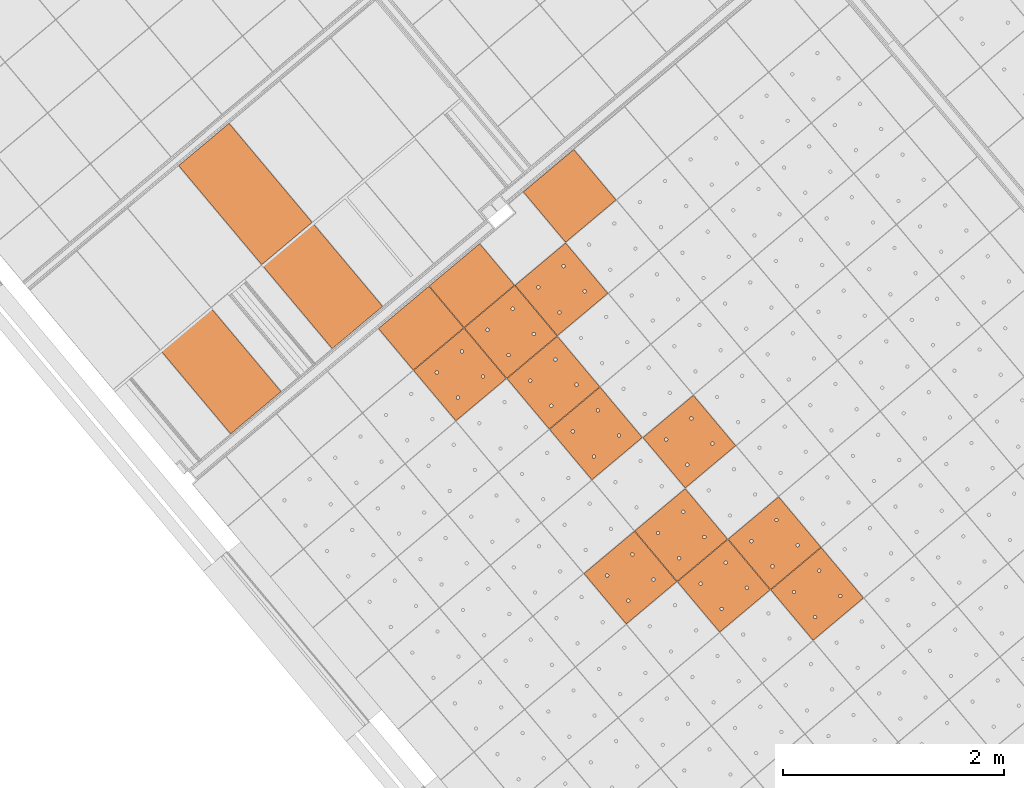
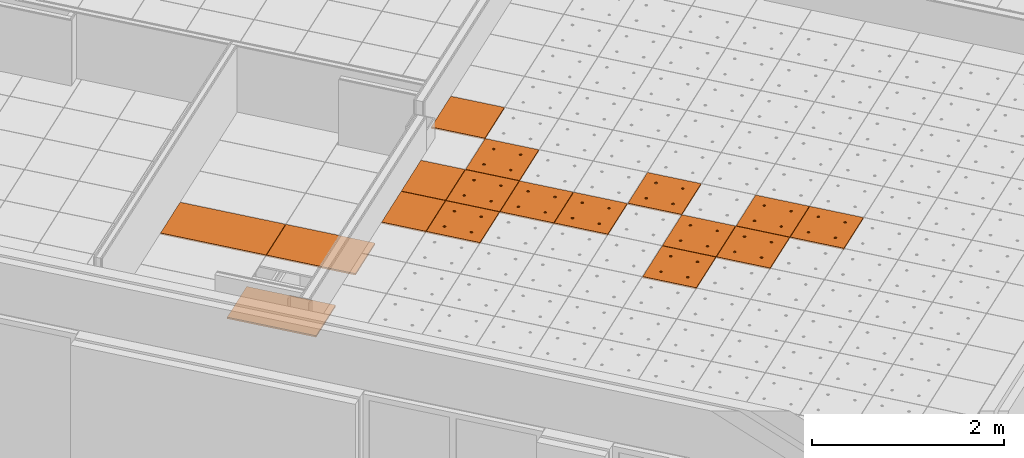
# One storey, part 133 of 338: 17 proxies, 2 elements without a shape of their own.
"""IFC2X3 building model written with IfcOpenShell, lengths in millimetres."""

from ifc_helpers import new_model, entity, si_unit, converted_unit, derived_unit, money_unit, direction, frame, origin_with_axes, place, context, subcontext, project, spatial, faceted_brep, source, transform, mapped, material, type_object, type_shapes, element, aggregate, save


model = new_model("IFC2X3")

# Units and contexts
model_context = context("Model", 3, precision=0.01, world=origin_with_axes(), true_north=direction((0.0, 1.0)))
plan_context = context("Plan", 3, precision=0.01, world=origin_with_axes(), true_north=direction((0.0, 1.0)))
body_context = subcontext(model_context, "Body", "Model", "MODEL_VIEW")
ifc_project = project(units=[si_unit("LENGTHUNIT", "METRE", prefix="MILLI"), si_unit("AREAUNIT", "SQUARE_METRE"), si_unit("VOLUMEUNIT", "CUBIC_METRE"), converted_unit("PLANEANGLEUNIT", "DEGREE", entity("IfcPlaneAngleMeasure", 0.0174532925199), si_unit("PLANEANGLEUNIT", "RADIAN"), dimensions=[0, 0, 0, 0, 0, 0, 0]), money_unit("EUR"), converted_unit("TIMEUNIT", "Year", entity("IfcTimeMeasure", 31556926.0), si_unit("TIMEUNIT", "SECOND"), dimensions=[0, 0, 1, 0, 0, 0, 0]), si_unit("MASSUNIT", "GRAM", prefix="KILO"), si_unit("THERMODYNAMICTEMPERATUREUNIT", "DEGREE_CELSIUS"), si_unit("LUMINOUSINTENSITYUNIT", "LUMEN"), si_unit("ENERGYUNIT", "JOULE", prefix="MEGA"), derived_unit("THERMALCONDUCTANCEUNIT", [(si_unit("POWERUNIT", "WATT"), 1), (si_unit("LENGTHUNIT", "METRE"), -1), (si_unit("THERMODYNAMICTEMPERATUREUNIT", "KELVIN"), -1)]), derived_unit("SPECIFICHEATCAPACITYUNIT", [(si_unit("ENERGYUNIT", "JOULE"), 1), (si_unit("MASSUNIT", "GRAM", prefix="KILO"), -1), (si_unit("THERMODYNAMICTEMPERATUREUNIT", "KELVIN"), -1)]), derived_unit("MASSDENSITYUNIT", [(si_unit("MASSUNIT", "GRAM", prefix="KILO"), 1), (si_unit("VOLUMEUNIT", "CUBIC_METRE"), -1)])], contexts=[model_context, plan_context])

# Site, building, storey
site_placement = place(None, origin_with_axes())
site = spatial("IfcSite", under=ifc_project, at=site_placement, Name="Fortuinstraat Woensdrecht", CompositionType="ELEMENT")
building_placement = place(site_placement, origin_with_axes())
building = spatial("IfcBuilding", under=site, at=building_placement, Name="IKC Fortuna", CompositionType="ELEMENT")
storey_placement = place(building_placement, origin_with_axes())
storey = spatial("IfcBuildingStorey", under=building, at=storey_placement, Name="00 begane grond", CompositionType="ELEMENT", Elevation=0.0)

# Covering, proxies
covering_type = type_object("IfcCoveringType", Name="Curtain Wall Type", PredefinedType="CEILING")
covering_1_placement = place(storey_placement, frame((15150.6418133, -6622.13986243, 4660.0), z_axis=(0.0, 0.0, 1.0), x_axis=(1.0, 0.0, 0.0)))
covering_1 = element("IfcCovering", 1, at=covering_1_placement, inside=storey, type_object=covering_type, Name="45_Plafondafwerking_P01", PredefinedType="CEILING")
ifc_material = material(Name="Gipsplaat")
building_element_proxy_type_1 = type_object("IfcBuildingElementProxyType", Name="Main Panel 600 x 600 x 20", PredefinedType="NOTDEFINED")
shared_shape_1 = source(origin_with_axes(), body_context, "Body", "Brep", [
    faceted_brep([(2.49999999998, 2.49999999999, -10.0), (300.0, 2.49999999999, -10.0), (300.0, 2.49999999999, 10.0), (2.49999999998, 2.49999999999, 10.0), (2.49999999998, 300.0, -10.0), (2.49999999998, 597.5, -10.0), (300.0, 597.5, -10.0), (597.5, 597.5, -10.0), (597.5, 300.0, -10.0), (597.5, 2.49999999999, -10.0), (166.25, 450.06232995, -10.0), (165.79423259, 452.64711538, -10.0), (164.896546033, 455.11348892, -10.0), (163.58421608, 457.38651108, -10.0), (161.897117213, 459.39711721, -10.0), (159.886511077, 461.08421608, -10.0), (157.613488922, 462.39654603, -10.0), (155.147115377, 463.29423259, -10.0), (152.562329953, 463.75, -10.0), (149.937670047, 463.75, -10.0), (147.352884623, 463.29423259, -10.0), (144.886511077, 462.39654603, -10.0), (142.613488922, 461.08421608, -10.0), (140.602882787, 459.39711721, -10.0), (138.91578392, 457.38651108, -10.0), (137.603453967, 455.11348892, -10.0), (136.705767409, 452.64711538, -10.0), (136.25, 450.06232995, -10.0), (136.25, 448.75, -10.0), (136.25, 447.43767005, -10.0), (136.705767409, 444.85288462, -10.0), (137.603453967, 442.38651108, -10.0), (138.91578392, 440.11348892, -10.0), (140.602882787, 438.10288279, -10.0), (142.613488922, 436.41578392, -10.0), (144.886511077, 435.10345397, -10.0), (147.352884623, 434.20576741, -10.0), (149.937670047, 433.75, -10.0), (152.562329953, 433.75, -10.0), (155.147115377, 434.20576741, -10.0), (157.613488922, 435.10345397, -10.0), (159.886511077, 436.41578392, -10.0), (161.897117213, 438.10288279, -10.0), (163.58421608, 440.11348892, -10.0), (164.896546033, 442.38651108, -10.0), (165.79423259, 444.85288462, -10.0), (166.25, 447.43767005, -10.0), (463.75, 450.06232995, -10.0), (463.29423259, 452.64711538, -10.0), (462.396546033, 455.11348892, -10.0), (461.08421608, 457.38651108, -10.0), (459.397117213, 459.39711721, -10.0), (457.386511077, 461.08421608, -10.0), (455.113488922, 462.39654603, -10.0), (452.647115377, 463.29423259, -10.0), (450.062329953, 463.75, -10.0), (447.437670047, 463.75, -10.0), (444.852884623, 463.29423259, -10.0), (442.386511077, 462.39654603, -10.0), (440.113488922, 461.08421608, -10.0), (438.102882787, 459.39711721, -10.0), (436.41578392, 457.38651108, -10.0), (435.103453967, 455.11348892, -10.0), (434.205767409, 452.64711538, -10.0), (433.75, 450.06232995, -10.0), (433.75, 448.75, -10.0), (433.75, 447.43767005, -10.0), (434.205767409, 444.85288462, -10.0), (435.103453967, 442.38651108, -10.0), (436.41578392, 440.11348892, -10.0), (438.102882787, 438.10288279, -10.0), (440.113488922, 436.41578392, -10.0), (442.386511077, 435.10345397, -10.0), (444.852884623, 434.20576741, -10.0), (447.437670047, 433.75, -10.0), (450.062329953, 433.75, -10.0), (452.647115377, 434.20576741, -10.0), (455.113488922, 435.10345397, -10.0), (457.386511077, 436.41578392, -10.0), (459.397117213, 438.10288279, -10.0), (461.08421608, 440.11348892, -10.0), (462.396546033, 442.38651108, -10.0), (463.29423259, 444.85288462, -10.0), (463.75, 447.43767005, -10.0), (463.75, 152.56232995, -10.0), (463.29423259, 155.14711538, -10.0), (462.396546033, 157.61348892, -10.0), (461.08421608, 159.88651108, -10.0), (459.397117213, 161.89711721, -10.0), (457.386511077, 163.58421608, -10.0), (455.113488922, 164.89654603, -10.0), (452.647115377, 165.79423259, -10.0), (450.062329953, 166.25, -10.0), (447.437670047, 166.25, -10.0), (444.852884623, 165.79423259, -10.0), (442.386511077, 164.89654603, -10.0), (440.113488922, 163.58421608, -10.0), (438.102882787, 161.89711721, -10.0), (436.41578392, 159.88651108, -10.0), (435.103453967, 157.61348892, -10.0), (434.205767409, 155.14711538, -10.0), (433.75, 152.56232995, -10.0), (433.75, 151.25, -10.0), (433.75, 149.93767005, -10.0), (434.205767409, 147.35288462, -10.0), (435.103453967, 144.88651108, -10.0), (436.41578392, 142.61348892, -10.0), (438.102882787, 140.60288279, -10.0), (440.113488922, 138.91578392, -10.0), (442.386511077, 137.60345397, -10.0), (444.852884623, 136.70576741, -10.0), (447.437670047, 136.25, -10.0), (450.062329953, 136.25, -10.0), (452.647115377, 136.70576741, -10.0), (455.113488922, 137.60345397, -10.0), (457.386511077, 138.91578392, -10.0), (459.397117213, 140.60288279, -10.0), (461.08421608, 142.61348892, -10.0), (462.396546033, 144.88651108, -10.0), (463.29423259, 147.35288462, -10.0), (463.75, 149.93767005, -10.0), (166.25, 152.56232995, -10.0), (165.79423259, 155.14711538, -10.0), (164.896546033, 157.61348892, -10.0), (163.58421608, 159.88651108, -10.0), (161.897117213, 161.89711721, -10.0), (159.886511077, 163.58421608, -10.0), (157.613488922, 164.89654603, -10.0), (155.147115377, 165.79423259, -10.0), (152.562329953, 166.25, -10.0), (149.937670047, 166.25, -10.0), (147.352884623, 165.79423259, -10.0), (144.886511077, 164.89654603, -10.0), (142.613488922, 163.58421608, -10.0), (140.602882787, 161.89711721, -10.0), (138.91578392, 159.88651108, -10.0), (137.603453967, 157.61348892, -10.0), (136.705767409, 155.14711538, -10.0), (136.25, 152.56232995, -10.0), (136.25, 151.25, -10.0), (136.25, 149.93767005, -10.0), (136.705767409, 147.35288462, -10.0), (137.603453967, 144.88651108, -10.0), (138.91578392, 142.61348892, -10.0), (140.602882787, 140.60288279, -10.0), (142.613488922, 138.91578392, -10.0), (144.886511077, 137.60345397, -10.0), (147.352884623, 136.70576741, -10.0), (149.937670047, 136.25, -10.0), (152.562329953, 136.25, -10.0), (155.147115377, 136.70576741, -10.0), (157.613488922, 137.60345397, -10.0), (159.886511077, 138.91578392, -10.0), (161.897117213, 140.60288279, -10.0), (163.58421608, 142.61348892, -10.0), (164.896546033, 144.88651108, -10.0), (165.79423259, 147.35288462, -10.0), (166.25, 149.93767005, -10.0), (597.5, 2.49999999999, 10.0), (597.5, 300.0, 10.0), (597.5, 597.5, 10.0), (300.0, 597.5, 10.0), (2.49999999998, 597.5, 10.0), (2.49999999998, 300.0, 10.0), (166.25, 450.06232995, 10.0), (166.25, 447.43767005, 10.0), (165.79423259, 444.85288462, 10.0), (164.896546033, 442.38651108, 10.0), (163.58421608, 440.11348892, 10.0), (161.897117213, 438.10288279, 10.0), (159.886511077, 436.41578392, 10.0), (157.613488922, 435.10345397, 10.0), (155.147115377, 434.20576741, 10.0), (152.562329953, 433.75, 10.0), (149.937670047, 433.75, 10.0), (147.352884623, 434.20576741, 10.0), (144.886511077, 435.10345397, 10.0), (142.613488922, 436.41578392, 10.0), (140.602882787, 438.10288279, 10.0), (138.91578392, 440.11348892, 10.0), (137.603453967, 442.38651108, 10.0), (136.705767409, 444.85288462, 10.0), (136.25, 447.43767005, 10.0), (136.25, 448.75, 10.0), (136.25, 450.06232995, 10.0), (136.705767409, 452.64711538, 10.0), (137.603453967, 455.11348892, 10.0), (138.91578392, 457.38651108, 10.0), (140.602882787, 459.39711721, 10.0), (142.613488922, 461.08421608, 10.0), (144.886511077, 462.39654603, 10.0), (147.352884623, 463.29423259, 10.0), (149.937670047, 463.75, 10.0), (152.562329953, 463.75, 10.0), (155.147115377, 463.29423259, 10.0), (157.613488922, 462.39654603, 10.0), (159.886511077, 461.08421608, 10.0), (161.897117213, 459.39711721, 10.0), (163.58421608, 457.38651108, 10.0), (164.896546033, 455.11348892, 10.0), (165.79423259, 452.64711538, 10.0), (463.75, 450.06232995, 10.0), (463.75, 447.43767005, 10.0), (463.29423259, 444.85288462, 10.0), (462.396546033, 442.38651108, 10.0), (461.08421608, 440.11348892, 10.0), (459.397117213, 438.10288279, 10.0), (457.386511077, 436.41578392, 10.0), (455.113488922, 435.10345397, 10.0), (452.647115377, 434.20576741, 10.0), (450.062329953, 433.75, 10.0), (447.437670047, 433.75, 10.0), (444.852884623, 434.20576741, 10.0), (442.386511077, 435.10345397, 10.0), (440.113488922, 436.41578392, 10.0), (438.102882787, 438.10288279, 10.0), (436.41578392, 440.11348892, 10.0), (435.103453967, 442.38651108, 10.0), (434.205767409, 444.85288462, 10.0), (433.75, 447.43767005, 10.0), (433.75, 448.75, 10.0), (433.75, 450.06232995, 10.0), (434.205767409, 452.64711538, 10.0), (435.103453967, 455.11348892, 10.0), (436.41578392, 457.38651108, 10.0), (438.102882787, 459.39711721, 10.0), (440.113488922, 461.08421608, 10.0), (442.386511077, 462.39654603, 10.0), (444.852884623, 463.29423259, 10.0), (447.437670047, 463.75, 10.0), (450.062329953, 463.75, 10.0), (452.647115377, 463.29423259, 10.0), (455.113488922, 462.39654603, 10.0), (457.386511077, 461.08421608, 10.0), (459.397117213, 459.39711721, 10.0), (461.08421608, 457.38651108, 10.0), (462.396546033, 455.11348892, 10.0), (463.29423259, 452.64711538, 10.0), (463.75, 152.56232995, 10.0), (463.75, 149.93767005, 10.0), (463.29423259, 147.35288462, 10.0), (462.396546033, 144.88651108, 10.0), (461.08421608, 142.61348892, 10.0), (459.397117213, 140.60288279, 10.0), (457.386511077, 138.91578392, 10.0), (455.113488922, 137.60345397, 10.0), (452.647115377, 136.70576741, 10.0), (450.062329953, 136.25, 10.0), (447.437670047, 136.25, 10.0), (444.852884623, 136.70576741, 10.0), (442.386511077, 137.60345397, 10.0), (440.113488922, 138.91578392, 10.0), (438.102882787, 140.60288279, 10.0), (436.41578392, 142.61348892, 10.0), (435.103453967, 144.88651108, 10.0), (434.205767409, 147.35288462, 10.0), (433.75, 149.93767005, 10.0), (433.75, 151.25, 10.0), (433.75, 152.56232995, 10.0), (434.205767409, 155.14711538, 10.0), (435.103453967, 157.61348892, 10.0), (436.41578392, 159.88651108, 10.0), (438.102882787, 161.89711721, 10.0), (440.113488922, 163.58421608, 10.0), (442.386511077, 164.89654603, 10.0), (444.852884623, 165.79423259, 10.0), (447.437670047, 166.25, 10.0), (450.062329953, 166.25, 10.0), (452.647115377, 165.79423259, 10.0), (455.113488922, 164.89654603, 10.0), (457.386511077, 163.58421608, 10.0), (459.397117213, 161.89711721, 10.0), (461.08421608, 159.88651108, 10.0), (462.396546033, 157.61348892, 10.0), (463.29423259, 155.14711538, 10.0), (166.25, 152.56232995, 10.0), (166.25, 149.93767005, 10.0), (165.79423259, 147.35288462, 10.0), (164.896546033, 144.88651108, 10.0), (163.58421608, 142.61348892, 10.0), (161.897117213, 140.60288279, 10.0), (159.886511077, 138.91578392, 10.0), (157.613488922, 137.60345397, 10.0), (155.147115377, 136.70576741, 10.0), (152.562329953, 136.25, 10.0), (149.937670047, 136.25, 10.0), (147.352884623, 136.70576741, 10.0), (144.886511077, 137.60345397, 10.0), (142.613488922, 138.91578392, 10.0), (140.602882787, 140.60288279, 10.0), (138.91578392, 142.61348892, 10.0), (137.603453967, 144.88651108, 10.0), (136.705767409, 147.35288462, 10.0), (136.25, 149.93767005, 10.0), (136.25, 151.25, 10.0), (136.25, 152.56232995, 10.0), (136.705767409, 155.14711538, 10.0), (137.603453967, 157.61348892, 10.0), (138.91578392, 159.88651108, 10.0), (140.602882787, 161.89711721, 10.0), (142.613488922, 163.58421608, 10.0), (144.886511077, 164.89654603, 10.0), (147.352884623, 165.79423259, 10.0), (149.937670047, 166.25, 10.0), (152.562329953, 166.25, 10.0), (155.147115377, 165.79423259, 10.0), (157.613488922, 164.89654603, 10.0), (159.886511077, 163.58421608, 10.0), (161.897117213, 161.89711721, 10.0), (163.58421608, 159.88651108, 10.0), (164.896546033, 157.61348892, 10.0), (165.79423259, 155.14711538, 10.0)], [[[0, 1, 2, 3]], [[0, 4, 5, 6, 7, 8, 9, 1], [10, 11, 12, 13, 14, 15, 16, 17, 18, 19, 20, 21, 22, 23, 24, 25, 26, 27, 28, 29, 30, 31, 32, 33, 34, 35, 36, 37, 38, 39, 40, 41, 42, 43, 44, 45, 46], [47, 48, 49, 50, 51, 52, 53, 54, 55, 56, 57, 58, 59, 60, 61, 62, 63, 64, 65, 66, 67, 68, 69, 70, 71, 72, 73, 74, 75, 76, 77, 78, 79, 80, 81, 82, 83], [84, 85, 86, 87, 88, 89, 90, 91, 92, 93, 94, 95, 96, 97, 98, 99, 100, 101, 102, 103, 104, 105, 106, 107, 108, 109, 110, 111, 112, 113, 114, 115, 116, 117, 118, 119, 120], [121, 122, 123, 124, 125, 126, 127, 128, 129, 130, 131, 132, 133, 134, 135, 136, 137, 138, 139, 140, 141, 142, 143, 144, 145, 146, 147, 148, 149, 150, 151, 152, 153, 154, 155, 156, 157]], [[1, 9, 158, 2]], [[3, 2, 158, 159, 160, 161, 162, 163], [164, 165, 166, 167, 168, 169, 170, 171, 172, 173, 174, 175, 176, 177, 178, 179, 180, 181, 182, 183, 184, 185, 186, 187, 188, 189, 190, 191, 192, 193, 194, 195, 196, 197, 198, 199, 200], [201, 202, 203, 204, 205, 206, 207, 208, 209, 210, 211, 212, 213, 214, 215, 216, 217, 218, 219, 220, 221, 222, 223, 224, 225, 226, 227, 228, 229, 230, 231, 232, 233, 234, 235, 236, 237], [238, 239, 240, 241, 242, 243, 244, 245, 246, 247, 248, 249, 250, 251, 252, 253, 254, 255, 256, 257, 258, 259, 260, 261, 262, 263, 264, 265, 266, 267, 268, 269, 270, 271, 272, 273, 274], [275, 276, 277, 278, 279, 280, 281, 282, 283, 284, 285, 286, 287, 288, 289, 290, 291, 292, 293, 294, 295, 296, 297, 298, 299, 300, 301, 302, 303, 304, 305, 306, 307, 308, 309, 310, 311]], [[4, 0, 3, 163]], [[5, 4, 163, 162]], [[6, 5, 162, 161]], [[7, 6, 161, 160]], [[8, 7, 160, 159]], [[9, 8, 159, 158]], [[11, 10, 164, 200]], [[12, 11, 200, 199]], [[13, 12, 199, 198]], [[14, 13, 198, 197]], [[15, 14, 197, 196]], [[16, 15, 196, 195]], [[17, 16, 195, 194]], [[18, 17, 194, 193]], [[19, 18, 193, 192]], [[20, 19, 192, 191]], [[21, 20, 191, 190]], [[22, 21, 190, 189]], [[23, 22, 189, 188]], [[24, 23, 188, 187]], [[25, 24, 187, 186]], [[26, 25, 186, 185]], [[27, 26, 185, 184]], [[28, 27, 184, 183]], [[29, 28, 183, 182]], [[30, 29, 182, 181]], [[31, 30, 181, 180]], [[32, 31, 180, 179]], [[33, 32, 179, 178]], [[34, 33, 178, 177]], [[35, 34, 177, 176]], [[36, 35, 176, 175]], [[37, 36, 175, 174]], [[38, 37, 174, 173]], [[39, 38, 173, 172]], [[40, 39, 172, 171]], [[41, 40, 171, 170]], [[42, 41, 170, 169]], [[43, 42, 169, 168]], [[44, 43, 168, 167]], [[45, 44, 167, 166]], [[46, 45, 166, 165]], [[10, 46, 165, 164]], [[48, 47, 201, 237]], [[49, 48, 237, 236]], [[50, 49, 236, 235]], [[51, 50, 235, 234]], [[52, 51, 234, 233]], [[53, 52, 233, 232]], [[54, 53, 232, 231]], [[55, 54, 231, 230]], [[56, 55, 230, 229]], [[57, 56, 229, 228]], [[58, 57, 228, 227]], [[59, 58, 227, 226]], [[60, 59, 226, 225]], [[61, 60, 225, 224]], [[62, 61, 224, 223]], [[63, 62, 223, 222]], [[64, 63, 222, 221]], [[65, 64, 221, 220]], [[66, 65, 220, 219]], [[67, 66, 219, 218]], [[68, 67, 218, 217]], [[69, 68, 217, 216]], [[70, 69, 216, 215]], [[71, 70, 215, 214]], [[72, 71, 214, 213]], [[73, 72, 213, 212]], [[74, 73, 212, 211]], [[75, 74, 211, 210]], [[76, 75, 210, 209]], [[77, 76, 209, 208]], [[78, 77, 208, 207]], [[79, 78, 207, 206]], [[80, 79, 206, 205]], [[81, 80, 205, 204]], [[82, 81, 204, 203]], [[83, 82, 203, 202]], [[47, 83, 202, 201]], [[85, 84, 238, 274]], [[86, 85, 274, 273]], [[87, 86, 273, 272]], [[88, 87, 272, 271]], [[89, 88, 271, 270]], [[90, 89, 270, 269]], [[91, 90, 269, 268]], [[92, 91, 268, 267]], [[93, 92, 267, 266]], [[94, 93, 266, 265]], [[95, 94, 265, 264]], [[96, 95, 264, 263]], [[97, 96, 263, 262]], [[98, 97, 262, 261]], [[99, 98, 261, 260]], [[100, 99, 260, 259]], [[101, 100, 259, 258]], [[102, 101, 258, 257]], [[103, 102, 257, 256]], [[104, 103, 256, 255]], [[105, 104, 255, 254]], [[106, 105, 254, 253]], [[107, 106, 253, 252]], [[108, 107, 252, 251]], [[109, 108, 251, 250]], [[110, 109, 250, 249]], [[111, 110, 249, 248]], [[112, 111, 248, 247]], [[113, 112, 247, 246]], [[114, 113, 246, 245]], [[115, 114, 245, 244]], [[116, 115, 244, 243]], [[117, 116, 243, 242]], [[118, 117, 242, 241]], [[119, 118, 241, 240]], [[120, 119, 240, 239]], [[84, 120, 239, 238]], [[122, 121, 275, 311]], [[123, 122, 311, 310]], [[124, 123, 310, 309]], [[125, 124, 309, 308]], [[126, 125, 308, 307]], [[127, 126, 307, 306]], [[128, 127, 306, 305]], [[129, 128, 305, 304]], [[130, 129, 304, 303]], [[131, 130, 303, 302]], [[132, 131, 302, 301]], [[133, 132, 301, 300]], [[134, 133, 300, 299]], [[135, 134, 299, 298]], [[136, 135, 298, 297]], [[137, 136, 297, 296]], [[138, 137, 296, 295]], [[139, 138, 295, 294]], [[140, 139, 294, 293]], [[141, 140, 293, 292]], [[142, 141, 292, 291]], [[143, 142, 291, 290]], [[144, 143, 290, 289]], [[145, 144, 289, 288]], [[146, 145, 288, 287]], [[147, 146, 287, 286]], [[148, 147, 286, 285]], [[149, 148, 285, 284]], [[150, 149, 284, 283]], [[151, 150, 283, 282]], [[152, 151, 282, 281]], [[153, 152, 281, 280]], [[154, 153, 280, 279]], [[155, 154, 279, 278]], [[156, 155, 278, 277]], [[157, 156, 277, 276]], [[121, 157, 276, 275]]]),
])
type_shapes(building_element_proxy_type_1, [shared_shape_1])
proxy_1_placement = place(covering_1_placement, frame((-2717.10872428, -3148.02100934, 1.38555833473e-10), z_axis=(0.0, 0.0, 1.0), x_axis=(1.0, 0.0, 0.0)))
proxy_1 = element("IfcBuildingElementProxy", 2, at=proxy_1_placement, type_object=building_element_proxy_type_1, material=ifc_material, Name="__600x608 Rockfon Krios", context=body_context, shape_type="MappedRepresentation", body=[
    mapped(shared_shape_1, transform((36.9769427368, 422.649625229, 0.0), x_axis=(-0.766044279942, -0.642787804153, 0.0), y_axis=(0.642787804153, -0.766044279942, 0.0), z_axis=(0.0, 0.0, 1.0))),
])
proxy_2_placement = place(covering_1_placement, frame((-3176.73529225, -3533.69369183, 1.58095758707e-10), z_axis=(0.0, 0.0, 1.0), x_axis=(1.0, 0.0, 0.0)))
proxy_2 = element("IfcBuildingElementProxy", 3, at=proxy_2_placement, type_object=building_element_proxy_type_1, material=ifc_material, Name="__600x609 Rockfon Krios", context=body_context, shape_type="MappedRepresentation", body=[
    mapped(shared_shape_1, transform((36.9769427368, 422.649625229, 0.0), x_axis=(-0.766044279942, -0.642787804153, 0.0), y_axis=(0.642787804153, -0.766044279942, 0.0), z_axis=(0.0, 0.0, 1.0))),
])
proxy_3_placement = place(covering_1_placement, frame((-2331.43604179, -3607.64757731, 1.38555833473e-10), z_axis=(0.0, 0.0, 1.0), x_axis=(1.0, 0.0, 0.0)))
proxy_3 = element("IfcBuildingElementProxy", 4, at=proxy_3_placement, type_object=building_element_proxy_type_1, material=ifc_material, Name="__600x628 Rockfon Krios", context=body_context, shape_type="MappedRepresentation", body=[
    mapped(shared_shape_1, transform((36.9769427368, 422.649625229, 0.0), x_axis=(-0.766044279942, -0.642787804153, 0.0), y_axis=(0.642787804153, -0.766044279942, 0.0), z_axis=(0.0, 0.0, 1.0))),
])
proxy_4_placement = place(covering_1_placement, frame((-2257.48215631, -2762.34832685, 1.1901590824e-10), z_axis=(0.0, 0.0, 1.0), x_axis=(1.0, 0.0, 0.0)))
proxy_4 = element("IfcBuildingElementProxy", 5, at=proxy_4_placement, type_object=building_element_proxy_type_1, material=ifc_material, Name="__600x637 Rockfon Krios", context=body_context, shape_type="MappedRepresentation", body=[
    mapped(shared_shape_1, transform((36.9769427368, 422.649625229, 0.0), x_axis=(-0.766044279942, -0.642787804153, 0.0), y_axis=(0.642787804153, -0.766044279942, 0.0), z_axis=(0.0, 0.0, 1.0))),
])
proxy_5_placement = place(covering_1_placement, frame((-1945.7633593, -4067.27414527, 1.38555833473e-10), z_axis=(0.0, 0.0, 1.0), x_axis=(1.0, 0.0, 0.0)))
proxy_5 = element("IfcBuildingElementProxy", 6, at=proxy_5_placement, type_object=building_element_proxy_type_1, material=ifc_material, Name="__600x682 Rockfon Krios", context=body_context, shape_type="MappedRepresentation", body=[
    mapped(shared_shape_1, transform((36.9769427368, 422.649625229, 0.0), x_axis=(-0.766044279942, -0.642787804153, 0.0), y_axis=(0.642787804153, -0.766044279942, 0.0), z_axis=(0.0, 0.0, 1.0))),
])
proxy_6_placement = place(covering_1_placement, frame((-1100.46410884, -4141.22803075, 1.1901590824e-10), z_axis=(0.0, 0.0, 1.0), x_axis=(1.0, 0.0, 0.0)))
proxy_6 = element("IfcBuildingElementProxy", 7, at=proxy_6_placement, type_object=building_element_proxy_type_1, material=ifc_material, Name="__600x736 Rockfon Krios", context=body_context, shape_type="MappedRepresentation", body=[
    mapped(shared_shape_1, transform((36.9769427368, 422.649625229, 0.0), x_axis=(-0.766044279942, -0.642787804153, 0.0), y_axis=(0.642787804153, -0.766044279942, 0.0), z_axis=(0.0, 0.0, 1.0))),
])
proxy_7_placement = place(covering_1_placement, frame((-329.118743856, -5060.48116668, 1.1901590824e-10), z_axis=(0.0, 0.0, 1.0), x_axis=(1.0, 0.0, 0.0)))
proxy_7 = element("IfcBuildingElementProxy", 8, at=proxy_7_placement, type_object=building_element_proxy_type_1, material=ifc_material, Name="__600x738 Rockfon Krios", context=body_context, shape_type="MappedRepresentation", body=[
    mapped(shared_shape_1, transform((36.9769427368, 422.649625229, 0.0), x_axis=(-0.766044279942, -0.642787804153, 0.0), y_axis=(0.642787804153, -0.766044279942, 0.0), z_axis=(0.0, 0.0, 1.0))),
])
proxy_8_placement = place(covering_1_placement, frame((56.5539386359, -5520.10773464, 1.1901590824e-10), z_axis=(0.0, 0.0, 1.0), x_axis=(1.0, 0.0, 0.0)))
proxy_8 = element("IfcBuildingElementProxy", 9, at=proxy_8_placement, type_object=building_element_proxy_type_1, material=ifc_material, Name="__600x739 Rockfon Krios", context=body_context, shape_type="MappedRepresentation", body=[
    mapped(shared_shape_1, transform((36.9769427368, 422.649625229, 0.0), x_axis=(-0.766044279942, -0.642787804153, 0.0), y_axis=(0.642787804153, -0.766044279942, 0.0), z_axis=(0.0, 0.0, 1.0))),
])
proxy_9_placement = place(covering_1_placement, frame((-1174.41799431, -4986.5272812, 1.38555833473e-10), z_axis=(0.0, 0.0, 1.0), x_axis=(1.0, 0.0, 0.0)))
proxy_9 = element("IfcBuildingElementProxy", 10, at=proxy_9_placement, type_object=building_element_proxy_type_1, material=ifc_material, Name="__600x746 Rockfon Krios", context=body_context, shape_type="MappedRepresentation", body=[
    mapped(shared_shape_1, transform((36.9769427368, 422.649625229, 0.0), x_axis=(-0.766044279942, -0.642787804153, 0.0), y_axis=(0.642787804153, -0.766044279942, 0.0), z_axis=(0.0, 0.0, 1.0))),
])
proxy_10_placement = place(covering_1_placement, frame((-788.745311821, -5446.15384917, 1.38555833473e-10), z_axis=(0.0, 0.0, 1.0), x_axis=(1.0, 0.0, 0.0)))
proxy_10 = element("IfcBuildingElementProxy", 11, at=proxy_10_placement, type_object=building_element_proxy_type_1, material=ifc_material, Name="__600x747 Rockfon Krios", context=body_context, shape_type="MappedRepresentation", body=[
    mapped(shared_shape_1, transform((36.9769427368, 422.649625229, 0.0), x_axis=(-0.766044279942, -0.642787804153, 0.0), y_axis=(0.642787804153, -0.766044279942, 0.0), z_axis=(0.0, 0.0, 1.0))),
])
proxy_11_placement = place(covering_1_placement, frame((-1634.04456228, -5372.1999637, 1.58095758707e-10), z_axis=(0.0, 0.0, 1.0), x_axis=(1.0, 0.0, 0.0)))
proxy_11 = element("IfcBuildingElementProxy", 12, at=proxy_11_placement, type_object=building_element_proxy_type_1, material=ifc_material, Name="__600x755 Rockfon Krios", context=body_context, shape_type="MappedRepresentation", body=[
    mapped(shared_shape_1, transform((36.9769427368, 422.649625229, 0.0), x_axis=(-0.766044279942, -0.642787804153, 0.0), y_axis=(0.642787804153, -0.766044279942, 0.0), z_axis=(0.0, 0.0, 1.0))),
])

covering_2_placement = place(storey_placement, frame((12053.0472686, -8408.71417201, 4260.0), z_axis=(0.0, 0.0, 1.0), x_axis=(1.0, 0.0, 0.0)))
covering_2 = element("IfcCovering", 13, at=covering_2_placement, inside=storey, type_object=covering_type, Name="45_Plafondafwerking_P02a", PredefinedType="CEILING")
building_element_proxy_type_2 = type_object("IfcBuildingElementProxyType", Name="Distinct Panel 600 x 993 x 20", PredefinedType="NOTDEFINED")
shared_shape_2 = source(origin_with_axes(), body_context, "Body", "Brep", [
    faceted_brep([(-597.499986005, 2.50000726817, -10.0), (-597.499986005, 2.50000726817, 10.0), (-597.499988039, 990.004792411, 10.0), (-597.499988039, 990.004792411, -10.0), (-2.50000682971, 2.50000529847, -10.0), (-2.50000682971, 2.50000529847, 10.0), (-2.50000466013, 990.004742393, 10.0), (-2.50000466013, 990.004742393, -10.0)], [[[0, 1, 2, 3]], [[4, 5, 1, 0]], [[1, 5, 6, 2]], [[3, 2, 6, 7]], [[0, 3, 7, 4]], [[7, 6, 5, 4]]]),
])
type_shapes(building_element_proxy_type_2, [shared_shape_2])
proxy_12_placement = place(covering_2_placement, frame((-2243.89826333, -1714.78228406, 0.0), z_axis=(0.0, 0.0, 1.0), x_axis=(1.0, 0.0, 0.0)))
proxy_12 = element("IfcBuildingElementProxy", 14, at=proxy_12_placement, type_object=building_element_proxy_type_2, material=ifc_material, Name="__Panel-D", context=body_context, shape_type="MappedRepresentation", body=[
    mapped(shared_shape_2, transform((-548.798245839, 187.315014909, 0.0), x_axis=(-0.766044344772, -0.642787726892, 0.0), y_axis=(0.642787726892, -0.766044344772, 0.0), z_axis=(0.0, 0.0, 1.0))),
])
proxy_13_placement = place(covering_2_placement, frame((-1324.6449905, -943.437082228, 0.0), z_axis=(0.0, 0.0, 1.0), x_axis=(1.0, 0.0, 0.0)))
proxy_13 = element("IfcBuildingElementProxy", 15, at=proxy_13_placement, type_object=building_element_proxy_type_2, material=ifc_material, Name="__Panel-D", context=body_context, shape_type="MappedRepresentation", body=[
    mapped(shared_shape_2, transform((-548.798304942, 187.315085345, 0.0), x_axis=(-0.766044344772, -0.642787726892, 0.0), y_axis=(0.642787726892, -0.766044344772, 0.0), z_axis=(0.0, 0.0, 1.0))),
])
building_element_proxy_type_3 = type_object("IfcBuildingElementProxyType", Name="Distinct Panel 600 x 1175 x 20", PredefinedType="NOTDEFINED")
shared_shape_3 = source(origin_with_axes(), body_context, "Body", "Brep", [
    faceted_brep([(-597.50001067, 27.5045910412, -10.0), (-597.50001067, 27.5045910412, 10.0), (-597.500014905, 1197.4999958, 10.0), (-597.500014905, 1197.4999958, -10.0), (-2.49999097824, 27.5046036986, -10.0), (-2.49999097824, 27.5046036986, 10.0), (-2.499995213, 1197.50000846, 10.0), (-2.499995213, 1197.50000846, -10.0)], [[[0, 1, 2, 3]], [[4, 5, 1, 0]], [[1, 5, 6, 2]], [[3, 2, 6, 7]], [[0, 3, 7, 4]], [[7, 6, 5, 4]]]),
])
type_shapes(building_element_proxy_type_3, [shared_shape_3])
proxy_14_placement = place(covering_2_placement, frame((-2021.26630525, -113.236385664, 0.0), z_axis=(0.0, 0.0, 1.0), x_axis=(1.0, 0.0, 0.0)))
proxy_14 = element("IfcBuildingElementProxy", 16, at=proxy_14_placement, type_object=building_element_proxy_type_3, material=ifc_material, Name="__Panel-D", context=body_context, shape_type="MappedRepresentation", body=[
    mapped(shared_shape_3, transform((-623.522262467, 276.367602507, 0.0), x_axis=(-0.766044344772, -0.642787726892, 0.0), y_axis=(0.642787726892, -0.766044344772, 0.0), z_axis=(0.0, 0.0, 1.0))),
])
aggregate(covering_2, [proxy_12, proxy_14, proxy_13])

# Proxy
building_element_proxy_type_4 = type_object("IfcBuildingElementProxyType", Name="600 x 600 x 20", PredefinedType="NOTDEFINED")
shared_shape_4 = source(origin_with_axes(), body_context, "Body", "Brep", [
    faceted_brep([(2.49999732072, 2.50000913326, -10.0), (597.499988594, 2.49999469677, -10.0), (597.499988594, 2.49999469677, 10.0), (2.49999732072, 2.50000913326, 10.0), (2.49999902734, 597.500043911, -10.0), (597.499988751, 597.500047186, -10.0), (597.499988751, 597.500047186, 10.0), (2.49999902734, 597.500043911, 10.0)], [[[0, 1, 2, 3]], [[0, 4, 5, 1]], [[1, 5, 6, 2]], [[3, 2, 6, 7]], [[4, 0, 3, 7]], [[5, 4, 7, 6]]]),
])
type_shapes(building_element_proxy_type_4, [shared_shape_4])
proxy_15_placement = place(covering_1_placement, frame((-2183.52827084, -1917.04907639, 0.0), z_axis=(0.0, 0.0, 1.0), x_axis=(1.0, 0.0, 0.0)))
proxy_15 = element("IfcBuildingElementProxy", 17, at=proxy_15_placement, type_object=building_element_proxy_type_4, material=ifc_material, Name="__600x743 Rockfon Krios", context=body_context, shape_type="MappedRepresentation", body=[
    mapped(shared_shape_4, transform((36.9769427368, 422.649625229, 0.0), x_axis=(-0.766044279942, -0.642787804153, 0.0), y_axis=(0.642787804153, -0.766044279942, 0.0), z_axis=(0.0, 0.0, 1.0))),
])

building_element_proxy_type_5 = type_object("IfcBuildingElementProxyType", Name="600 x 495 x 20", PredefinedType="NOTDEFINED")
shared_shape_5 = source(origin_with_axes(), body_context, "Body", "Brep", [
    faceted_brep([(2.4999936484, 107.500759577, -10.0), (597.50001212, 107.500757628, -10.0), (597.50001212, 107.500757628, 10.0), (2.4999936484, 107.500759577, 10.0), (2.50000141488, 597.499997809, -10.0), (597.500002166, 597.500010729, -10.0), (597.500002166, 597.500010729, 10.0), (2.50000141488, 597.499997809, 10.0)], [[[0, 1, 2, 3]], [[0, 4, 5, 1]], [[1, 5, 6, 2]], [[3, 2, 6, 7]], [[4, 0, 3, 7]], [[5, 4, 7, 6]]]),
])
proxy_16_placement = place(covering_1_placement, frame((-3069.03480339, -2728.61205646, 1.38555833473e-10), z_axis=(0.0, 0.0, 1.0), x_axis=(1.0, 0.0, 0.0)))
proxy_16 = element("IfcBuildingElementProxy", 18, at=proxy_16_placement, type_object=building_element_proxy_type_5, material=ifc_material, Name="__600x707 Rockfon Krios", context=body_context, shape_type="MappedRepresentation", body=[
    mapped(shared_shape_5, transform((3.23033935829, 462.867240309, 0.0), x_axis=(-0.766044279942, -0.642787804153, 0.0), y_axis=(0.642787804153, -0.766044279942, 0.0), z_axis=(0.0, 0.0, 1.0))),
])

shared_shape_6 = source(origin_with_axes(), body_context, "Body", "Brep", [
    faceted_brep([(2.4999936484, 107.500759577, -10.0), (597.50001212, 107.500757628, -10.0), (597.50001212, 107.500757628, 10.0), (2.4999936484, 107.500759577, 10.0), (2.50000141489, 597.499997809, -10.0), (597.500002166, 597.500010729, -10.0), (597.500002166, 597.500010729, 10.0), (2.50000141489, 597.499997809, 10.0)], [[[0, 1, 2, 3]], [[0, 4, 5, 1]], [[1, 5, 6, 2]], [[3, 2, 6, 7]], [[4, 0, 3, 7]], [[5, 4, 7, 6]]]),
])
type_shapes(building_element_proxy_type_5, [shared_shape_5, shared_shape_6])
proxy_17_placement = place(covering_1_placement, frame((-3528.66137136, -3114.28473895, 1.58095758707e-10), z_axis=(0.0, 0.0, 1.0), x_axis=(1.0, 0.0, 0.0)))
proxy_17 = element("IfcBuildingElementProxy", 19, at=proxy_17_placement, type_object=building_element_proxy_type_5, material=ifc_material, Name="__600x653 Rockfon Krios", context=body_context, shape_type="MappedRepresentation", body=[
    mapped(shared_shape_6, transform((3.23033935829, 462.867240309, 0.0), x_axis=(-0.766044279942, -0.642787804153, 0.0), y_axis=(0.642787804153, -0.766044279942, 0.0), z_axis=(0.0, 0.0, 1.0))),
])

aggregate(covering_1, [proxy_1, proxy_2, proxy_3, proxy_4, proxy_17, proxy_5, proxy_16, proxy_6, proxy_7, proxy_8, proxy_15, proxy_9, proxy_10, proxy_11])

save(model, "model.ifc")
